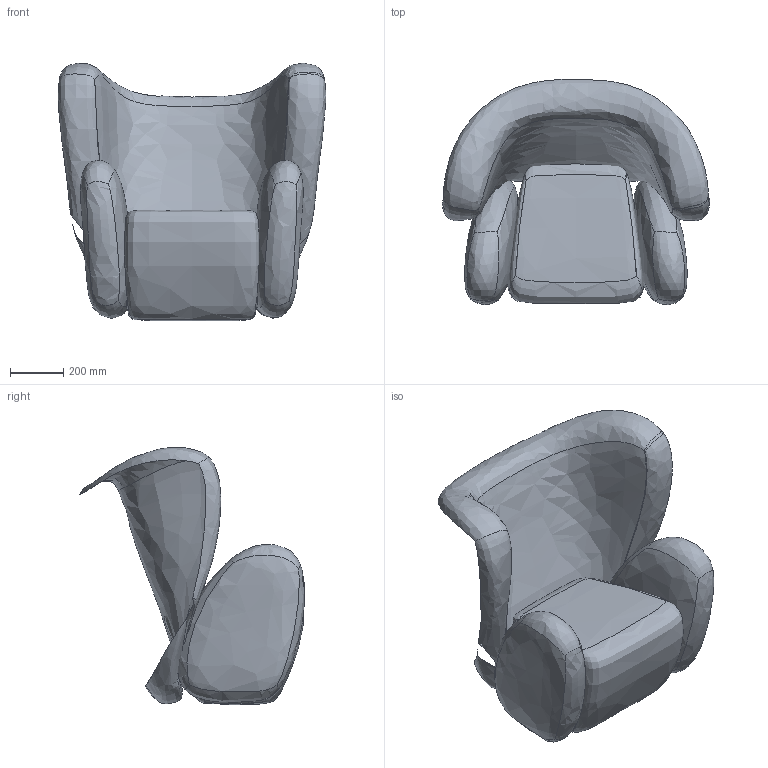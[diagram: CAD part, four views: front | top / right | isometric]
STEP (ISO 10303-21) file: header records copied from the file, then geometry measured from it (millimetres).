
FILE_DESCRIPTION(/* description */ (''),/* implementation_level */ '2;1');
FILE_NAME(/* name */ 'Big-Big-Chair_NORR11',/* time_stamp */ '2024-08-08T10:01:26+02:00',/* author */ (''),/* organization */ (''),/* preprocessor_version */ 'ST-DEVELOPER v19.2',/* originating_system */ 'Rhino 8.9',/* authorisation */ '');
FILE_SCHEMA (('CONFIG_CONTROL_DESIGN'));
Length unit declared in the file: millimetre
Products named in the file (1): Document
Bounding box: 1008.18 x 848.05 x 970.29 mm (x, y, z)
Surface area: 4512437.9 mm2 (no closed solid volume)
Topology: 0 solids, 7 shells, 24 faces, 90 edges, 70 vertices
Faces by surface type: bspline 24
Entity records: 7576 total; most frequent: CARTESIAN_POINT 7022, ORIENTED_EDGE 120, EDGE_CURVE 88, B_SPLINE_CURVE_WITH_KNOTS 88, VERTEX_POINT 70, ADVANCED_FACE 24, FACE_OUTER_BOUND 24, EDGE_LOOP 24
